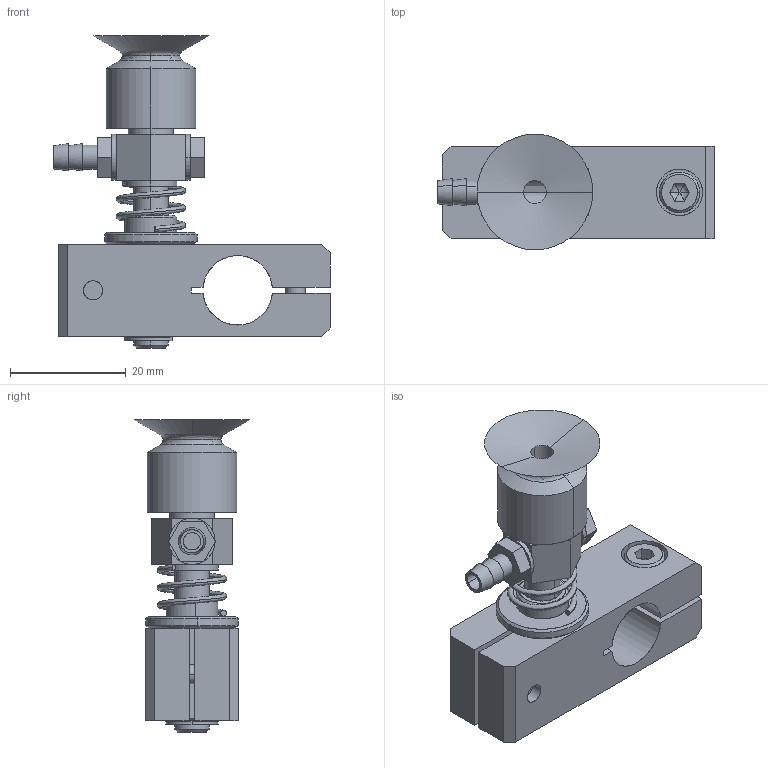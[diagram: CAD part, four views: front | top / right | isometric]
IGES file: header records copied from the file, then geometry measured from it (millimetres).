
Start section: SolidWorks IGES file using analytic representation for surfaces
Global section: file name: E:\EFCKishi\‹z’…\JSM\IGES\JSM-004.IGS; native system: SolidWorks 2006 by SolidWorks Corporation; preprocessor: SolidWorks 2006 by SolidWorks Corporation; author: CAD58; date: 080913.170605; units: millimetre
Bounding box: 47.8 x 20 x 54 mm (x, y, z)
Surface area: 12103.3 mm2 (no closed solid volume)
Topology: 0 solids, 0 shells, 266 faces, 4795 edges, 4779 vertices
Faces by surface type: bspline 134, revolution 132
